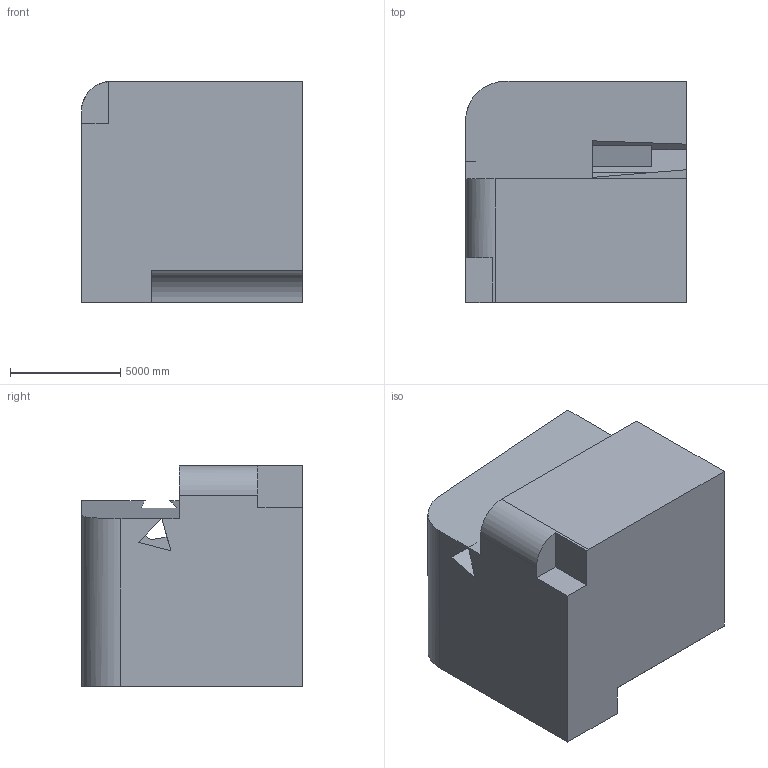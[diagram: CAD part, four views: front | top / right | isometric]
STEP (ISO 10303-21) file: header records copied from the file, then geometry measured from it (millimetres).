
FILE_DESCRIPTION (( 'STEP AP203' ), '1' );
FILE_NAME ('156.STEP', '2022-08-31T11:59:56', ( 'user' ), ( '' ), 'SwSTEP 2.0', 'SolidWorks 2021', '' );
FILE_SCHEMA (( 'CONFIG_CONTROL_DESIGN' ));
Length unit declared in the file: centimetre
Products named in the file (1): 156
Bounding box: 10000 x 10000 x 10000 mm (x, y, z)
Volume: 869966824858.5 mm3; surface area: 611819739.2 mm2
Topology: 1 solids, 1 shells, 30 faces, 88 edges, 58 vertices
Faces by surface type: plane 25, cylinder 5
Entity records: 1067 total; most frequent: CARTESIAN_POINT 180, ORIENTED_EDGE 176, DIRECTION 159, EDGE_CURVE 88, VECTOR 77, LINE 77, VERTEX_POINT 58, AXIS2_PLACEMENT_3D 41
